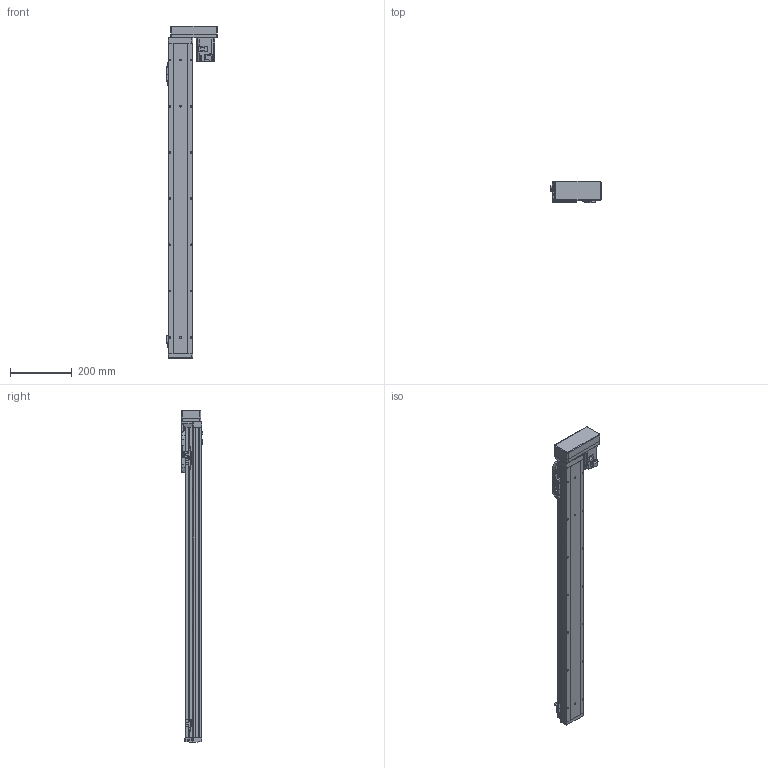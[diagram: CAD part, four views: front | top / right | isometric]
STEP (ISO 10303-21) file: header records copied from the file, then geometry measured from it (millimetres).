
FILE_DESCRIPTION (( 'STEP AP214' ), '1' );
FILE_NAME ('GSH8-850-BL-M20-1.step', '2025-01-07T06:06:44', ( '' ), ( '' ), 'SwSTEP 2.0', 'SolidWorks 2012', '' );
FILE_SCHEMA (( 'AUTOMOTIVE_DESIGN' ));
Length unit declared in the file: millimetre
Products named in the file (5): GSH8-BL-011-850-M20; GSH8-BL-008; HG-KR23_200W_Motor; GSH8-850-BL-M20-1; GSH8-GY-004
Assembly tree (4 placements, depth 2):
  GSH8-850-BL-M20-1
    GSH8-BL-011-850-M20
    GSH8-GY-004
    GSH8-BL-008
    HG-KR23_200W_Motor
Bounding box: 163 x 71.3 x 1078.2 mm (x, y, z)
Volume: 2457412.2 mm3; surface area: 635743.3 mm2
Topology: 4 solids, 8 shells, 1148 faces, 3017 edges, 1942 vertices
Faces by surface type: plane 648, cylinder 404, torus 42, cone 26, bspline 24, sphere 4
Entity records: 45475 total; most frequent: CARTESIAN_POINT 10708, DIRECTION 6125, ORIENTED_EDGE 6018, EDGE_CURVE 3009, AXIS2_PLACEMENT_3D 2063, VECTOR 1999, LINE 1999, VERTEX_POINT 1938
